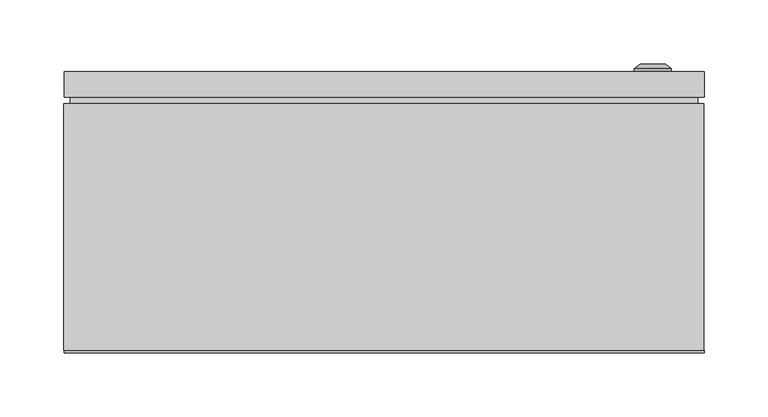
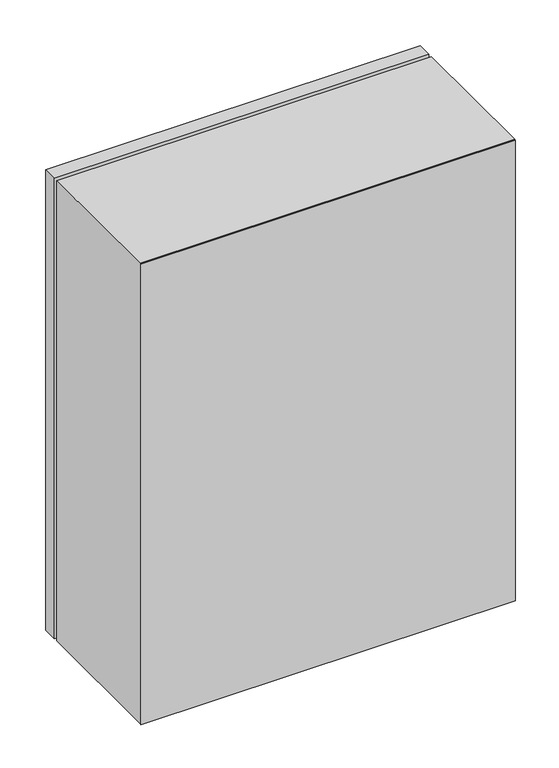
"""IFC4 building model written with IfcOpenShell, lengths in millimetres: proxy geometry, ЩМП_IP65 : ЩМП-3-0_650х500х220."""

from ifc_helpers import new_model, si_unit, frame, origin, origin_with_axes, place, context, project, spatial, polyline, circle_curve, outline, extrude, source, transform, mapped, element, save
from ifc_brep_helpers import plane_surface, cylinder_surface, revolved_surface, advanced_brep


def electrical_equipment_75fcd377(model_context):
    return source(origin(), model_context, "Body", "SolidModel", [
        extrude(outline(polyline([(245.0, 195.0), (-245.0, 195.0), (-245.0, 200.0), (245.0, 200.0), (245.0, 195.0)])), frame((0.0, 0.0, 5.0), z_axis=(0.0, 0.0, 1.0), x_axis=(1.0, 0.0, 0.0)), (0.0, 0.0, 1.0), 640.0),
        extrude(outline(polyline([(250.0, 200.0), (-250.0, 200.0), (-250.0, 220.0), (250.0, 220.0), (250.0, 200.0)])), origin_with_axes(), (0.0, 0.0, 1.0), 650.0),
        advanced_brep(
        [(195.669873, 220.0, 325.0), (224.330127, 220.0, 325.0), (210.0, 220.0, 325.0), (195.669873, 222.366592, 325.0), (224.330127, 222.366592, 325.0), (200.0, 226.0, 325.0), (220.0, 226.0, 325.0), (208.1080471, 226.0, 325.0), (211.8919529, 226.0, 325.0), (208.1080471, 224.9822294, 325.0), (211.8919529, 224.9822294, 325.0), (210.0, 224.9822294, 325.0)],
        [
            (0, 1, circle_curve(frame((210.0, 220.0, 325.0), z_axis=(0.0, -1.0, 0.0), x_axis=(1.0, 0.0, 0.0)), 14.330127)),
            (1, 2),
            (2, 0),
            (1, 0, circle_curve(frame((210.0, 220.0, 325.0), z_axis=(0.0, -1.0, 0.0), x_axis=(1.0, 0.0, 0.0)), 14.330127)),
            (3, 4, circle_curve(frame((210.0, 222.366592, 325.0), z_axis=(0.0, -1.0, 0.0), x_axis=(1.0, 0.0, 0.0)), 14.330127)),
            (4, 1),
            (0, 3),
            (4, 3, circle_curve(frame((210.0, 222.366592, 325.0), z_axis=(0.0, -1.0, 0.0), x_axis=(1.0, 0.0, 0.0)), 14.330127)),
            (5, 6, circle_curve(frame((210.0, 226.0, 325.0), z_axis=(0.0, -1.0, 0.0), x_axis=(1.0, 0.0, 0.0)), 10.0)),
            (6, 4),
            (3, 5),
            (6, 5, circle_curve(frame((210.0, 226.0, 325.0), z_axis=(0.0, -1.0, 0.0), x_axis=(1.0, 0.0, 0.0)), 10.0)),
            (7, 8, circle_curve(frame((210.0, 226.0, 325.0), z_axis=(0.0, -1.0, 0.0), x_axis=(1.0, 0.0, 0.0)), 1.8919529)),
            (8, 6),
            (5, 7),
            (8, 7, circle_curve(frame((210.0, 226.0, 325.0), z_axis=(0.0, -1.0, 0.0), x_axis=(1.0, 0.0, 0.0)), 1.8919529)),
            (9, 10, circle_curve(frame((210.0, 224.9822294, 325.0), z_axis=(0.0, -1.0, 0.0), x_axis=(1.0, 0.0, 0.0)), 1.8919529)),
            (10, 8),
            (7, 9),
            (10, 9, circle_curve(frame((210.0, 224.9822294, 325.0), z_axis=(0.0, -1.0, 0.0), x_axis=(1.0, 0.0, 0.0)), 1.8919529)),
            (11, 10),
            (9, 11),
        ],
        [
            plane_surface(frame((210.0, 220.0, 325.0), z_axis=(0.0, -1.0, 0.0), x_axis=(1.0, 0.0, 0.0))),
            cylinder_surface(frame((210.0, 233.1348851, 325.0), z_axis=(0.0, 1.0, 0.0), x_axis=(1.0, 0.0, 0.0)), 14.330127),
            revolved_surface(polyline([(224.330127, 222.366592, 325.0), (220.0, 226.0, 325.0)]), (210.0, 233.1348851, 325.0), (0.0, 1.0, 0.0)),
            plane_surface(frame((210.0, 226.0, 325.0), z_axis=(0.0, 1.0, 0.0), x_axis=(1.0, 0.0, 0.0))),
            revolved_surface(polyline([(211.8919529, 226.0, 325.0), (211.8919529, 224.9822294, 325.0)]), (210.0, 233.1348851, 325.0), (0.0, 1.0, 0.0)),
            plane_surface(frame((210.0, 224.9822294, 325.0), z_axis=(0.0, 1.0, 0.0), x_axis=(1.0, 0.0, 0.0))),
        ],
        [
            (0, [[1, 2, 3]]),
            (0, [[4, -3, -2]]),
            (1, [[5, 6, -1, 7]]),
            (1, [[8, -7, -4, -6]]),
            (2, [[9, 10, -5, 11]]),
            (2, [[12, -11, -8, -10]]),
            (3, [[13, 14, -9, 15]]),
            (3, [[16, -15, -12, -14]]),
            (4, [[17, 18, -13, 19]]),
            (4, [[20, -19, -16, -18]]),
            (5, [[21, -17, 22]]),
            (5, [[-22, -20, -21]]),
        ],
    ),
        extrude(outline(polyline([(650.0, -250.0033905), (0.0, -250.0033905), (0.0, 249.9966095), (650.0, 249.9966095), (650.0, -250.0033905)]), holes=[polyline([(615.0, -220.0033905), (615.0, 219.9966095), (35.0, 219.9966095), (35.0, -220.0033905), (615.0, -220.0033905)])]), frame((0.0, 2.0, 0.0), z_axis=(0.0, 1.0, 0.0), x_axis=(0.0, 0.0, 1.0)), (0.0, 0.0, 1.0), 193.0),
        extrude(outline(polyline([(250.0, 0.0), (-250.0, 0.0), (-250.0, 2.0), (250.0, 2.0), (250.0, 0.0)])), origin_with_axes(), (0.0, 0.0, 1.0), 650.0),
    ])


if __name__ == "__main__":
    model = new_model("IFC4")
    model_context = context("Model", 3, world=origin())
    ifc_project = project(units=[si_unit("LENGTHUNIT", "METRE", prefix="MILLI")], contexts=[model_context])
    site = spatial("IfcSite", under=ifc_project)
    building = spatial("IfcBuilding", under=site)
    placement = place(None, origin())
    electrical_equipment_shape = electrical_equipment_75fcd377(model_context)
    element("IfcBuildingElementProxy", 1, Name="ЩМП_IP65 : ЩМП-3-0_650х500х220", ObjectType="ЩМП_IP65 : ЩМП-3-0_650х500х220", at=placement, inside=building, context=model_context, shape_type="MappedRepresentation", body=[
        mapped(electrical_equipment_shape, transform((0.0, 0.0, 0.0), x_axis=(1.0, 0.0, 0.0), y_axis=(0.0, 1.0, 0.0), z_axis=(0.0, 0.0, 1.0))),
    ])
    save(model, "model.ifc")
